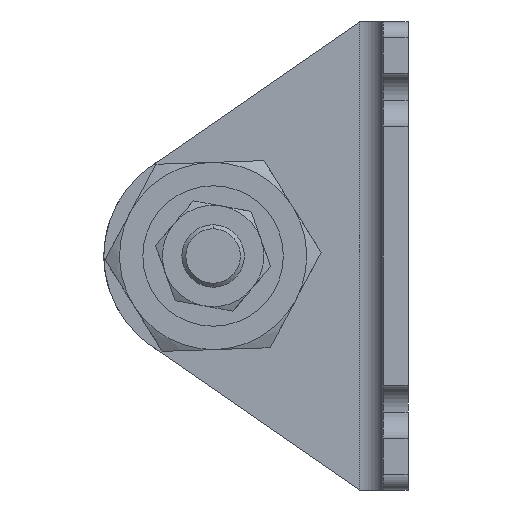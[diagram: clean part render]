
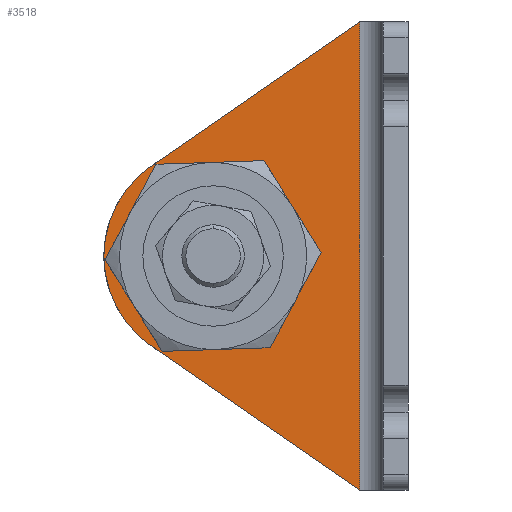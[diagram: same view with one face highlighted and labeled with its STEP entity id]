
A CAD part, left-side view. The second image highlights one B-rep face of the part: STEP entity #3518.
In plain terms, the highlighted planar face has unit normal (-1, 0, 0) as drawn and (1, 0, 0) by its records, which use the part's own axes.
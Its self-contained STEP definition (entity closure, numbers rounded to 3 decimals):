
#17 = ORIENTED_EDGE ( 'NONE', *, *, #21, .T. ) ;
#21 = EDGE_CURVE ( 'NONE', #2690, #2804, #3289, .T. ) ;
#28 = FACE_BOUND ( 'NONE', #817, .T. ) ;
#138 = CIRCLE ( 'NONE', #3708, 14. ) ;
#162 = DIRECTION ( 'NONE',  ( 1., 0., 0. ) ) ;
#180 = DIRECTION ( 'NONE',  ( 0., 1., 0. ) ) ;
#201 = CARTESIAN_POINT ( 'NONE',  ( 3.2, 6.2, 0. ) ) ;
#208 = ORIENTED_EDGE ( 'NONE', *, *, #1076, .T. ) ;
#219 = VECTOR ( 'NONE', #3326, 1000. ) ;
#315 = DIRECTION ( 'NONE',  ( 0., 1., 0. ) ) ;
#647 = EDGE_CURVE ( 'NONE', #779, #2534, #3639, .T. ) ;
#692 = ORIENTED_EDGE ( 'NONE', *, *, #2507, .F. ) ;
#715 = DIRECTION ( 'NONE',  ( 1., 0., 0. ) ) ;
#779 = VERTEX_POINT ( 'NONE', #201 ) ;
#817 = EDGE_LOOP ( 'NONE', ( #1039, #692 ) ) ;
#819 = LINE ( 'NONE', #3173, #2501 ) ;
#830 = CARTESIAN_POINT ( 'NONE',  ( 3.2, 3.2, -60. ) ) ;
#928 = CARTESIAN_POINT ( 'NONE',  ( 3.2, 32.226, -17.976 ) ) ;
#985 = VERTEX_POINT ( 'NONE', #2160 ) ;
#998 = EDGE_CURVE ( 'NONE', #2804, #2534, #138, .T. ) ;
#1039 = ORIENTED_EDGE ( 'NONE', *, *, #3652, .F. ) ;
#1076 = EDGE_CURVE ( 'NONE', #3295, #2690, #819, .T. ) ;
#1103 = CARTESIAN_POINT ( 'NONE',  ( 3.2, 6.2, -60. ) ) ;
#1344 = DIRECTION ( 'NONE',  ( 1., 0., 0. ) ) ;
#1356 = AXIS2_PLACEMENT_3D ( 'NONE', #3550, #4128, #315 ) ;
#1383 = DIRECTION ( 'NONE',  ( 0., 0.823, 0.568 ) ) ;
#1409 = EDGE_CURVE ( 'NONE', #779, #3295, #3178, .T. ) ;
#1512 = CARTESIAN_POINT ( 'NONE',  ( 3.2, 34.5, -30. ) ) ;
#1541 = CARTESIAN_POINT ( 'NONE',  ( 3.2, 25., -30. ) ) ;
#1709 = AXIS2_PLACEMENT_3D ( 'NONE', #3886, #715, #4133 ) ;
#1936 = CARTESIAN_POINT ( 'NONE',  ( 3.2, 6.2, -60. ) ) ;
#2008 = DIRECTION ( 'NONE',  ( 0., 1., 0. ) ) ;
#2032 = DIRECTION ( 'NONE',  ( 1., 0., 0. ) ) ;
#2040 = CARTESIAN_POINT ( 'NONE',  ( 3.2, 32.956, -18.481 ) ) ;
#2160 = CARTESIAN_POINT ( 'NONE',  ( 3.2, 15.5, -30. ) ) ;
#2288 = CARTESIAN_POINT ( 'NONE',  ( 3.2, 32.956, -41.519 ) ) ;
#2364 = ORIENTED_EDGE ( 'NONE', *, *, #647, .F. ) ;
#2501 = VECTOR ( 'NONE', #1383, 1000. ) ;
#2507 = EDGE_CURVE ( 'NONE', #985, #3063, #3931, .T. ) ;
#2534 = VERTEX_POINT ( 'NONE', #2040 ) ;
#2690 = VERTEX_POINT ( 'NONE', #2288 ) ;
#2804 = VERTEX_POINT ( 'NONE', #3157 ) ;
#2811 = DIRECTION ( 'NONE',  ( 0., 0.823, -0.568 ) ) ;
#2829 = CIRCLE ( 'NONE', #1356, 9.5 ) ;
#2907 = PLANE ( 'NONE',  #3826 ) ;
#2934 = DIRECTION ( 'NONE',  ( 0., 1., 0. ) ) ;
#3063 = VERTEX_POINT ( 'NONE', #1512 ) ;
#3157 = CARTESIAN_POINT ( 'NONE',  ( 3.2, 39., -30. ) ) ;
#3171 = AXIS2_PLACEMENT_3D ( 'NONE', #1541, #1344, #2934 ) ;
#3173 = CARTESIAN_POINT ( 'NONE',  ( 3.2, 4.169, -61.403 ) ) ;
#3178 = LINE ( 'NONE', #1936, #219 ) ;
#3261 = ORIENTED_EDGE ( 'NONE', *, *, #1409, .T. ) ;
#3289 = CIRCLE ( 'NONE', #1709, 14. ) ;
#3295 = VERTEX_POINT ( 'NONE', #1103 ) ;
#3326 = DIRECTION ( 'NONE',  ( 0., 0., -1. ) ) ;
#3331 = FACE_OUTER_BOUND ( 'NONE', #3582, .T. ) ;
#3340 = ORIENTED_EDGE ( 'NONE', *, *, #998, .T. ) ;
#3518 = ADVANCED_FACE ( 'NONE', ( #28, #3331 ), #2907, .T. ) ;
#3550 = CARTESIAN_POINT ( 'NONE',  ( 3.2, 25., -30. ) ) ;
#3582 = EDGE_LOOP ( 'NONE', ( #208, #17, #3340, #2364, #3261 ) ) ;
#3639 = LINE ( 'NONE', #928, #3800 ) ;
#3652 = EDGE_CURVE ( 'NONE', #3063, #985, #2829, .T. ) ;
#3708 = AXIS2_PLACEMENT_3D ( 'NONE', #3822, #2032, #180 ) ;
#3800 = VECTOR ( 'NONE', #2811, 1000. ) ;
#3822 = CARTESIAN_POINT ( 'NONE',  ( 3.2, 25., -30. ) ) ;
#3826 = AXIS2_PLACEMENT_3D ( 'NONE', #830, #162, #2008 ) ;
#3886 = CARTESIAN_POINT ( 'NONE',  ( 3.2, 25., -30. ) ) ;
#3931 = CIRCLE ( 'NONE', #3171, 9.5 ) ;
#4128 = DIRECTION ( 'NONE',  ( 1., 0., 0. ) ) ;
#4133 = DIRECTION ( 'NONE',  ( 0., 1., 0. ) ) ;
